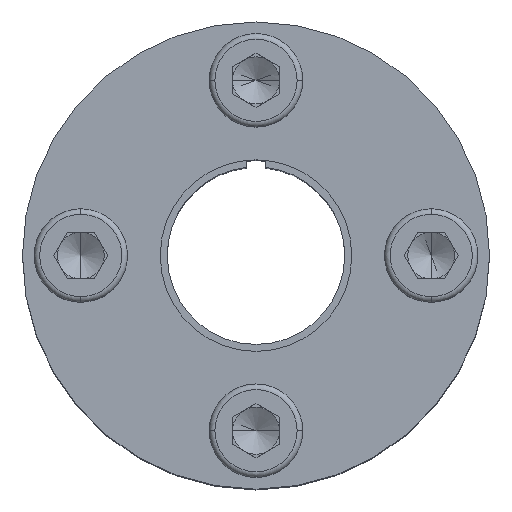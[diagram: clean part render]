
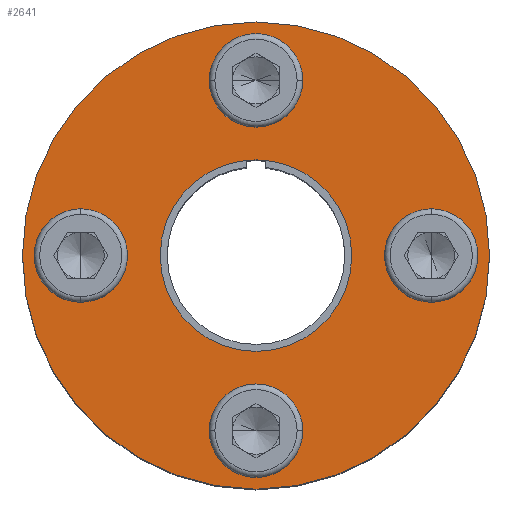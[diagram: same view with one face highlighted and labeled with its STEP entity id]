
A CAD part, top view. The second image highlights one B-rep face of the part: STEP entity #2641.
In plain terms, the highlighted planar face has unit normal (0, 0, 1).
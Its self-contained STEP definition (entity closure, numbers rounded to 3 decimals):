
#10 = DIRECTION ( 'NONE',  ( 1., 0., 0. ) ) ;
#27 = DIRECTION ( 'NONE',  ( 1., 0., 0. ) ) ;
#34 = EDGE_CURVE ( 'NONE', #2102, #1038, #6381, .T. ) ;
#88 = VERTEX_POINT ( 'NONE', #1164 ) ;
#133 = DIRECTION ( 'NONE',  ( 0., 0., -1. ) ) ;
#142 = CIRCLE ( 'NONE', #215, 3.5 ) ;
#215 = AXIS2_PLACEMENT_3D ( 'NONE', #747, #4302, #1254 ) ;
#236 = VERTEX_POINT ( 'NONE', #2831 ) ;
#277 = CARTESIAN_POINT ( 'NONE',  ( 10.25, 0., 48.495 ) ) ;
#312 = ORIENTED_EDGE ( 'NONE', *, *, #1149, .T. ) ;
#502 = AXIS2_PLACEMENT_3D ( 'NONE', #640, #6235, #27 ) ;
#616 = EDGE_LOOP ( 'NONE', ( #6397, #2590 ) ) ;
#640 = CARTESIAN_POINT ( 'NONE',  ( 0., 0., 48.495 ) ) ;
#657 = FACE_OUTER_BOUND ( 'NONE', #6609, .T. ) ;
#664 = EDGE_CURVE ( 'NONE', #236, #88, #1725, .T. ) ;
#686 = CARTESIAN_POINT ( 'NONE',  ( 0., 0., 48.495 ) ) ;
#747 = CARTESIAN_POINT ( 'NONE',  ( 18.75, 0., 48.495 ) ) ;
#806 = FACE_BOUND ( 'NONE', #5240, .T. ) ;
#931 = VERTEX_POINT ( 'NONE', #3544 ) ;
#1038 = VERTEX_POINT ( 'NONE', #1067 ) ;
#1054 = AXIS2_PLACEMENT_3D ( 'NONE', #4361, #1304, #4864 ) ;
#1067 = CARTESIAN_POINT ( 'NONE',  ( 25., 0., 48.495 ) ) ;
#1149 = EDGE_CURVE ( 'NONE', #3060, #931, #142, .T. ) ;
#1164 = CARTESIAN_POINT ( 'NONE',  ( -22.25, 0., 48.495 ) ) ;
#1188 = VERTEX_POINT ( 'NONE', #2819 ) ;
#1189 = DIRECTION ( 'NONE',  ( 1., 0., 0. ) ) ;
#1218 = ORIENTED_EDGE ( 'NONE', *, *, #34, .F. ) ;
#1254 = DIRECTION ( 'NONE',  ( 1., 0., 0. ) ) ;
#1304 = DIRECTION ( 'NONE',  ( 0., 0., -1. ) ) ;
#1339 = EDGE_CURVE ( 'NONE', #1038, #2102, #5716, .T. ) ;
#1351 = AXIS2_PLACEMENT_3D ( 'NONE', #2178, #5756, #2692 ) ;
#1436 = CARTESIAN_POINT ( 'NONE',  ( 0., 0., 48.495 ) ) ;
#1469 = CARTESIAN_POINT ( 'NONE',  ( 15.25, 0., 48.495 ) ) ;
#1479 = ORIENTED_EDGE ( 'NONE', *, *, #2332, .T. ) ;
#1485 = ORIENTED_EDGE ( 'NONE', *, *, #1339, .F. ) ;
#1539 = VERTEX_POINT ( 'NONE', #3274 ) ;
#1684 = DIRECTION ( 'NONE',  ( 0., 0., -1. ) ) ;
#1725 = CIRCLE ( 'NONE', #1054, 3.5 ) ;
#1748 = DIRECTION ( 'NONE',  ( 0., 0., -1. ) ) ;
#1777 = DIRECTION ( 'NONE',  ( 0., 0., -1. ) ) ;
#1782 = CARTESIAN_POINT ( 'NONE',  ( -25., 0., 48.495 ) ) ;
#1919 = DIRECTION ( 'NONE',  ( 0., 0., -1. ) ) ;
#1958 = DIRECTION ( 'NONE',  ( 1., 0., 0. ) ) ;
#1997 = FACE_BOUND ( 'NONE', #5724, .T. ) ;
#2009 = AXIS2_PLACEMENT_3D ( 'NONE', #4823, #1777, #5344 ) ;
#2084 = CARTESIAN_POINT ( 'NONE',  ( -3.5, 18.75, 48.495 ) ) ;
#2102 = VERTEX_POINT ( 'NONE', #1782 ) ;
#2114 = AXIS2_PLACEMENT_3D ( 'NONE', #6119, #3053, #10 ) ;
#2160 = FACE_BOUND ( 'NONE', #5028, .T. ) ;
#2178 = CARTESIAN_POINT ( 'NONE',  ( 0., 0., 48.495 ) ) ;
#2219 = CARTESIAN_POINT ( 'NONE',  ( 0., 18.75, 48.495 ) ) ;
#2281 = CARTESIAN_POINT ( 'NONE',  ( -3.5, -18.75, 48.495 ) ) ;
#2332 = EDGE_CURVE ( 'NONE', #2815, #2608, #5367, .T. ) ;
#2537 = VERTEX_POINT ( 'NONE', #2084 ) ;
#2590 = ORIENTED_EDGE ( 'NONE', *, *, #2925, .T. ) ;
#2608 = VERTEX_POINT ( 'NONE', #3128 ) ;
#2641 = ADVANCED_FACE ( 'NONE', ( #2160, #3502, #806, #3348, #1997, #657 ), #4688, .F. ) ;
#2692 = DIRECTION ( 'NONE',  ( 1., 0., 0. ) ) ;
#2708 = EDGE_CURVE ( 'NONE', #3332, #1539, #3830, .T. ) ;
#2723 = DIRECTION ( 'NONE',  ( 1., 0., 0. ) ) ;
#2814 = AXIS2_PLACEMENT_3D ( 'NONE', #4975, #1919, #5506 ) ;
#2815 = VERTEX_POINT ( 'NONE', #277 ) ;
#2819 = CARTESIAN_POINT ( 'NONE',  ( 3.5, 18.75, 48.495 ) ) ;
#2831 = CARTESIAN_POINT ( 'NONE',  ( -15.25, 0., 48.495 ) ) ;
#2845 = CIRCLE ( 'NONE', #5608, 10.25 ) ;
#2925 = EDGE_CURVE ( 'NONE', #2537, #1188, #5341, .T. ) ;
#3053 = DIRECTION ( 'NONE',  ( 0., 0., -1. ) ) ;
#3060 = VERTEX_POINT ( 'NONE', #1469 ) ;
#3128 = CARTESIAN_POINT ( 'NONE',  ( -10.25, 0., 48.495 ) ) ;
#3173 = CARTESIAN_POINT ( 'NONE',  ( -18.75, 0., 48.495 ) ) ;
#3274 = CARTESIAN_POINT ( 'NONE',  ( 3.5, -18.75, 48.495 ) ) ;
#3278 = CIRCLE ( 'NONE', #3350, 3.5 ) ;
#3332 = VERTEX_POINT ( 'NONE', #2281 ) ;
#3348 = FACE_BOUND ( 'NONE', #4508, .T. ) ;
#3350 = AXIS2_PLACEMENT_3D ( 'NONE', #2219, #5786, #2723 ) ;
#3472 = CIRCLE ( 'NONE', #3543, 3.5 ) ;
#3502 = FACE_BOUND ( 'NONE', #616, .T. ) ;
#3543 = AXIS2_PLACEMENT_3D ( 'NONE', #3173, #133, #3683 ) ;
#3544 = CARTESIAN_POINT ( 'NONE',  ( 22.25, 0., 48.495 ) ) ;
#3642 = ORIENTED_EDGE ( 'NONE', *, *, #3812, .T. ) ;
#3649 = ORIENTED_EDGE ( 'NONE', *, *, #4374, .T. ) ;
#3683 = DIRECTION ( 'NONE',  ( 1., 0., 0. ) ) ;
#3812 = EDGE_CURVE ( 'NONE', #1539, #3332, #6293, .T. ) ;
#3830 = CIRCLE ( 'NONE', #6500, 3.5 ) ;
#3936 = AXIS2_PLACEMENT_3D ( 'NONE', #4737, #1684, #5263 ) ;
#4199 = ORIENTED_EDGE ( 'NONE', *, *, #4321, .T. ) ;
#4221 = DIRECTION ( 'NONE',  ( 0., 0., -1. ) ) ;
#4296 = AXIS2_PLACEMENT_3D ( 'NONE', #1436, #5014, #1958 ) ;
#4302 = DIRECTION ( 'NONE',  ( 0., 0., -1. ) ) ;
#4321 = EDGE_CURVE ( 'NONE', #88, #236, #3472, .T. ) ;
#4361 = CARTESIAN_POINT ( 'NONE',  ( -18.75, 0., 48.495 ) ) ;
#4374 = EDGE_CURVE ( 'NONE', #2608, #2815, #2845, .T. ) ;
#4508 = EDGE_LOOP ( 'NONE', ( #3642, #4841 ) ) ;
#4627 = ORIENTED_EDGE ( 'NONE', *, *, #4963, .T. ) ;
#4688 = PLANE ( 'NONE',  #1351 ) ;
#4737 = CARTESIAN_POINT ( 'NONE',  ( 18.75, 0., 48.495 ) ) ;
#4790 = CARTESIAN_POINT ( 'NONE',  ( 0., -18.75, 48.495 ) ) ;
#4823 = CARTESIAN_POINT ( 'NONE',  ( 0., -18.75, 48.495 ) ) ;
#4841 = ORIENTED_EDGE ( 'NONE', *, *, #2708, .T. ) ;
#4864 = DIRECTION ( 'NONE',  ( 1., 0., 0. ) ) ;
#4963 = EDGE_CURVE ( 'NONE', #931, #3060, #6432, .T. ) ;
#4975 = CARTESIAN_POINT ( 'NONE',  ( 0., 18.75, 48.495 ) ) ;
#5014 = DIRECTION ( 'NONE',  ( 0., 0., -1. ) ) ;
#5028 = EDGE_LOOP ( 'NONE', ( #5295, #4199 ) ) ;
#5240 = EDGE_LOOP ( 'NONE', ( #4627, #312 ) ) ;
#5263 = DIRECTION ( 'NONE',  ( 1., 0., 0. ) ) ;
#5295 = ORIENTED_EDGE ( 'NONE', *, *, #664, .T. ) ;
#5310 = DIRECTION ( 'NONE',  ( 1., 0., 0. ) ) ;
#5341 = CIRCLE ( 'NONE', #2814, 3.5 ) ;
#5344 = DIRECTION ( 'NONE',  ( 1., 0., 0. ) ) ;
#5367 = CIRCLE ( 'NONE', #4296, 10.25 ) ;
#5506 = DIRECTION ( 'NONE',  ( 1., 0., 0. ) ) ;
#5608 = AXIS2_PLACEMENT_3D ( 'NONE', #686, #4221, #1189 ) ;
#5716 = CIRCLE ( 'NONE', #2114, 25. ) ;
#5724 = EDGE_LOOP ( 'NONE', ( #1479, #3649 ) ) ;
#5756 = DIRECTION ( 'NONE',  ( 0., 0., -1. ) ) ;
#5786 = DIRECTION ( 'NONE',  ( 0., 0., -1. ) ) ;
#6119 = CARTESIAN_POINT ( 'NONE',  ( 0., 0., 48.495 ) ) ;
#6126 = EDGE_CURVE ( 'NONE', #1188, #2537, #3278, .T. ) ;
#6235 = DIRECTION ( 'NONE',  ( 0., 0., -1. ) ) ;
#6293 = CIRCLE ( 'NONE', #2009, 3.5 ) ;
#6381 = CIRCLE ( 'NONE', #502, 25. ) ;
#6397 = ORIENTED_EDGE ( 'NONE', *, *, #6126, .T. ) ;
#6432 = CIRCLE ( 'NONE', #3936, 3.5 ) ;
#6500 = AXIS2_PLACEMENT_3D ( 'NONE', #4790, #1748, #5310 ) ;
#6609 = EDGE_LOOP ( 'NONE', ( #1218, #1485 ) ) ;
